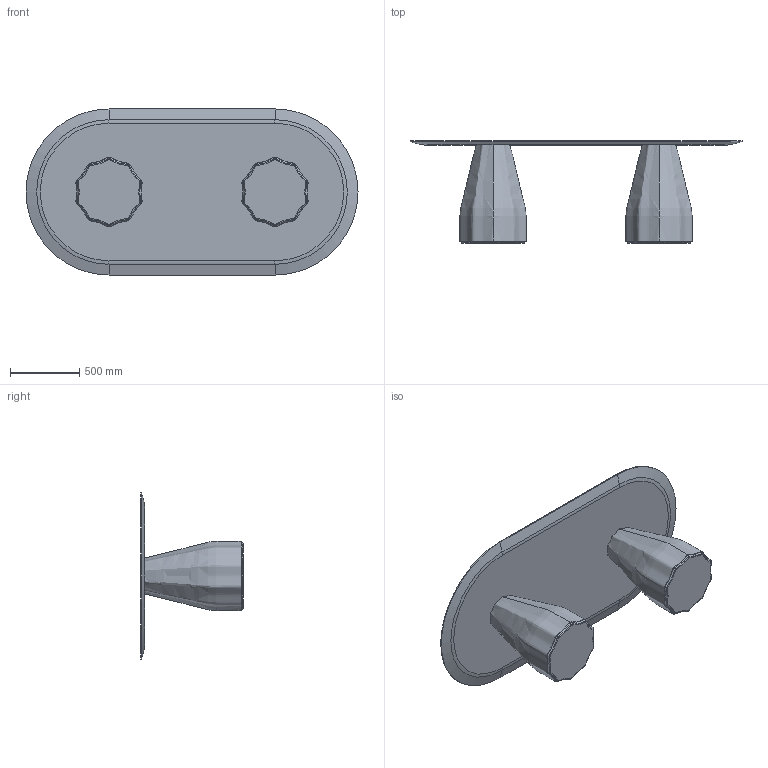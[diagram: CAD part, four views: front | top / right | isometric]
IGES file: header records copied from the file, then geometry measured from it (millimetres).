
Start section: SolidWorks IGES file using analytic representation for surfaces
Global section: file name: Z:\01-VICCARBE\VICCARBE TECNICO 2018\6.-Studio VCCB\Otros\Burin\Modelado\WEB\Nueva carpeta\BurinH74-240x120.IGS; native system: SolidWorks 2013; preprocessor: SolidWorks 2013; author: Usuario; date: 190219.134408; units: millimetre
Bounding box: 2400 x 740 x 1200 mm (x, y, z)
Volume: 256859616.9 mm3; surface area: 7505964.5 mm2
Topology: 3 solids, 3 shells, 262 faces, 680 edges, 424 vertices
Faces by surface type: bspline 244, plane 10, revolution 8
